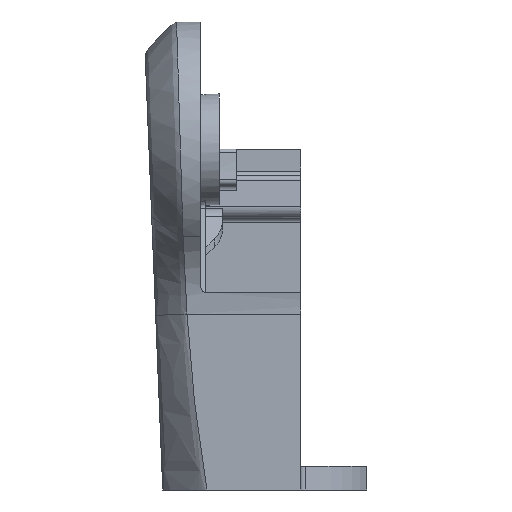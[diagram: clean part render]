
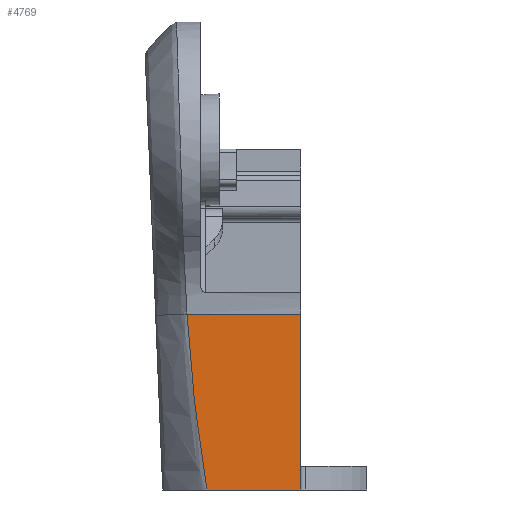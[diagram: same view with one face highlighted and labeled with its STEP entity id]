
A CAD part, front view. The second image highlights one B-rep face of the part: STEP entity #4769.
In plain terms, the highlighted planar face has unit normal (0, -1, 0).
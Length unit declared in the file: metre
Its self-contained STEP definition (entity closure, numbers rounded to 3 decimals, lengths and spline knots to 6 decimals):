
#518=B_SPLINE_CURVE_WITH_KNOTS('',3,(#14091,#14092,#14093,#14094,#14095,
#14096,#14097,#14098,#14099,#14100,#14101,#14102,#14103,#14104,#14105,#14106,
#14107,#14108,#14109,#14110,#14111,#14112,#14113,#14114,#14115,#14116,#14117,
#14118,#14119,#14120,#14121,#14122,#14123,#14124,#14125,#14126,#14127,#14128,
#14129,#14130,#14131,#14132,#14133),.UNSPECIFIED.,.F.,.F.,(4,1,1,1,1,1,
1,1,1,1,1,1,1,1,1,1,1,1,1,1,1,1,1,1,1,1,1,1,1,1,1,1,1,1,1,1,1,1,1,1,4),
(0.,0.0625,0.125,0.1875,0.21875,0.234375,0.25,0.265625,0.28125,0.3125,0.375,
0.40625,0.4375,0.46875,0.484375,0.492188,0.5,0.507813,0.515625,0.53125,
0.5625,0.625,0.65625,0.6875,0.703125,0.71875,0.734375,0.742188,0.746094,
0.75,0.753906,0.757813,0.765625,0.78125,0.796875,0.8125,0.84375,0.875,
0.90625,0.9375,1.),.UNSPECIFIED.);
#563=LINE('',#6591,#763);
#641=LINE('',#13737,#841);
#658=LINE('',#14135,#858);
#763=VECTOR('',#5467,1.);
#841=VECTOR('',#5861,1.);
#858=VECTOR('',#5924,1.);
#1654=ORIENTED_EDGE('',*,*,#2859,.T.);
#1655=ORIENTED_EDGE('',*,*,#2412,.T.);
#1656=ORIENTED_EDGE('',*,*,#2815,.F.);
#1657=ORIENTED_EDGE('',*,*,#2860,.T.);
#2412=EDGE_CURVE('',#3127,#3126,#563,.T.);
#2815=EDGE_CURVE('',#3402,#3126,#641,.T.);
#2859=EDGE_CURVE('',#3434,#3127,#518,.T.);
#2860=EDGE_CURVE('',#3402,#3434,#658,.F.);
#3126=VERTEX_POINT('',#6590);
#3127=VERTEX_POINT('',#6592);
#3402=VERTEX_POINT('',#13736);
#3434=VERTEX_POINT('',#14134);
#3943=EDGE_LOOP('',(#1654,#1655,#1656,#1657));
#4327=FACE_BOUND('',#3943,.T.);
#4586=PLANE('',#5158);
#4769=ADVANCED_FACE('',(#4327),#4586,.F.);
#5158=AXIS2_PLACEMENT_3D('',#14090,#5922,#5923);
#5467=DIRECTION('',(1.,0.,0.));
#5861=DIRECTION('',(0.,0.,-1.));
#5922=DIRECTION('',(0.,1.,0.));
#5923=DIRECTION('',(0.,0.,1.));
#5924=DIRECTION('',(1.,0.,0.));
#6590=CARTESIAN_POINT('',(0.221,-0.02465,-0.0405));
#6591=CARTESIAN_POINT('',(-0.865599,-0.02465,-0.0405));
#6592=CARTESIAN_POINT('',(0.191072,-0.02465,-0.0405));
#13736=CARTESIAN_POINT('',(0.221,-0.02465,0.015509));
#13737=CARTESIAN_POINT('',(0.221,-0.02465,-0.003957));
#14090=CARTESIAN_POINT('',(-0.865599,-0.02465,-0.003957));
#14091=CARTESIAN_POINT('',(0.184753,-0.02465,0.015509));
#14092=CARTESIAN_POINT('',(0.184798,-0.02465,0.014395));
#14093=CARTESIAN_POINT('',(0.184903,-0.02465,0.012139));
#14094=CARTESIAN_POINT('',(0.185108,-0.02465,0.008672));
#14095=CARTESIAN_POINT('',(0.185318,-0.02465,0.005719));
#14096=CARTESIAN_POINT('',(0.185486,-0.02465,0.003606));
#14097=CARTESIAN_POINT('',(0.185587,-0.02465,0.002404));
#14098=CARTESIAN_POINT('',(0.18567,-0.02465,0.001452));
#14099=CARTESIAN_POINT('',(0.185739,-0.02465,0.000668));
#14100=CARTESIAN_POINT('',(0.185842,-0.02465,-0.000448));
#14101=CARTESIAN_POINT('',(0.186027,-0.02465,-0.002398));
#14102=CARTESIAN_POINT('',(0.186261,-0.02465,-0.004697));
#14103=CARTESIAN_POINT('',(0.186515,-0.02465,-0.00705));
#14104=CARTESIAN_POINT('',(0.186717,-0.02465,-0.008846));
#14105=CARTESIAN_POINT('',(0.186893,-0.02465,-0.010362));
#14106=CARTESIAN_POINT('',(0.187022,-0.02465,-0.011445));
#14107=CARTESIAN_POINT('',(0.187096,-0.02465,-0.012054));
#14108=CARTESIAN_POINT('',(0.187156,-0.02465,-0.012548));
#14109=CARTESIAN_POINT('',(0.1872,-0.02465,-0.01291));
#14110=CARTESIAN_POINT('',(0.187266,-0.02465,-0.013443));
#14111=CARTESIAN_POINT('',(0.18738,-0.02465,-0.014364));
#14112=CARTESIAN_POINT('',(0.187621,-0.02465,-0.016266));
#14113=CARTESIAN_POINT('',(0.187917,-0.02465,-0.018531));
#14114=CARTESIAN_POINT('',(0.188235,-0.02465,-0.020895));
#14115=CARTESIAN_POINT('',(0.188443,-0.02465,-0.022414));
#14116=CARTESIAN_POINT('',(0.188615,-0.02465,-0.023653));
#14117=CARTESIAN_POINT('',(0.188747,-0.02465,-0.024596));
#14118=CARTESIAN_POINT('',(0.188858,-0.02465,-0.025387));
#14119=CARTESIAN_POINT('',(0.188939,-0.02465,-0.025956));
#14120=CARTESIAN_POINT('',(0.188983,-0.02465,-0.026267));
#14121=CARTESIAN_POINT('',(0.189022,-0.02465,-0.026546));
#14122=CARTESIAN_POINT('',(0.189038,-0.02465,-0.026654));
#14123=CARTESIAN_POINT('',(0.189067,-0.02465,-0.026862));
#14124=CARTESIAN_POINT('',(0.189117,-0.02465,-0.027205));
#14125=CARTESIAN_POINT('',(0.189193,-0.02465,-0.027734));
#14126=CARTESIAN_POINT('',(0.189289,-0.02465,-0.0284));
#14127=CARTESIAN_POINT('',(0.189425,-0.02465,-0.02934));
#14128=CARTESIAN_POINT('',(0.189609,-0.02465,-0.030609));
#14129=CARTESIAN_POINT('',(0.189854,-0.02465,-0.032282));
#14130=CARTESIAN_POINT('',(0.190123,-0.02465,-0.034105));
#14131=CARTESIAN_POINT('',(0.190512,-0.02465,-0.036736));
#14132=CARTESIAN_POINT('',(0.190838,-0.02465,-0.038934));
#14133=CARTESIAN_POINT('',(0.191072,-0.02465,-0.0405));
#14134=CARTESIAN_POINT('',(0.184753,-0.02465,0.015509));
#14135=CARTESIAN_POINT('',(-0.865599,-0.02465,0.015509));
